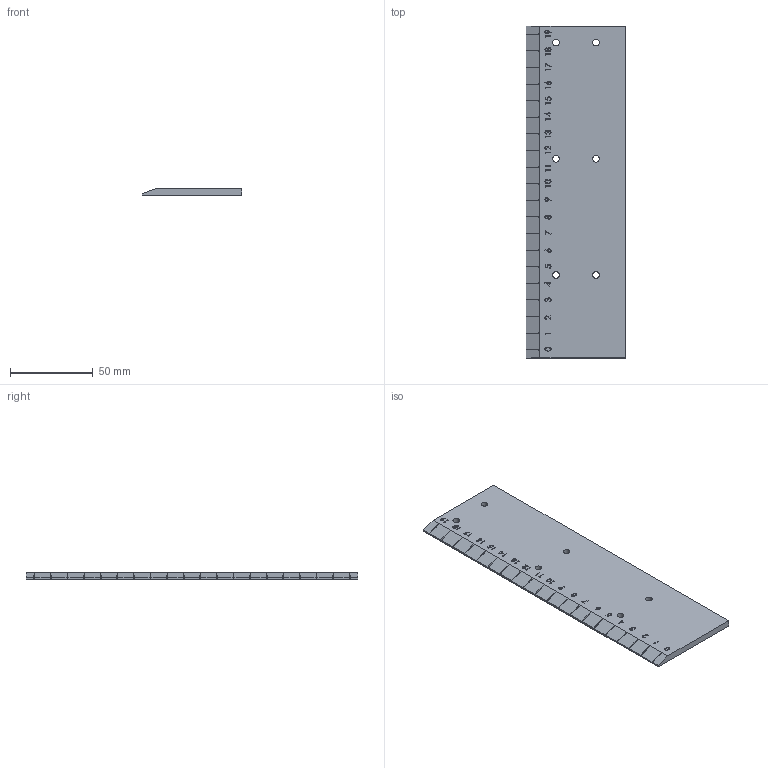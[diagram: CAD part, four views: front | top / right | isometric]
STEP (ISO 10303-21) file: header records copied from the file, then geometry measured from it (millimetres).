
FILE_DESCRIPTION(/* description */ (''),/* implementation_level */ '2;1');
FILE_NAME(/* name */ 'C:\Users\user\Documents\Inventor\Home Ventilator CPAP\Ruler.stp',/* time_stamp */ '2020-04-03T13:38:34+02:00',/* author */ ('user'),/* organization */ (''),/* preprocessor_version */ 'ST-DEVELOPER v16.5',/* originating_system */ 'Autodesk Inventor 2017',/* authorisation */ '');
FILE_SCHEMA (('AUTOMOTIVE_DESIGN { 1 0 10303 214 3 1 1 }'));
Length unit declared in the file: millimetre
Products named in the file (1): Ruler
Bounding box: 60 x 200 x 4 mm (x, y, z)
Volume: 45155.2 mm3; surface area: 26074.4 mm2
Topology: 1 solids, 1 shells, 451 faces, 1181 edges, 774 vertices
Faces by surface type: plane 301, bspline 144, cylinder 6
Full cylindrical faces by diameter (mm): 4 x6
Entity records: 21839 total; most frequent: CARTESIAN_POINT 11697, ORIENTED_EDGE 2350, DIRECTION 1515, EDGE_CURVE 1175, LINE 875, VECTOR 875, VERTEX_POINT 774, EDGE_LOOP 511
